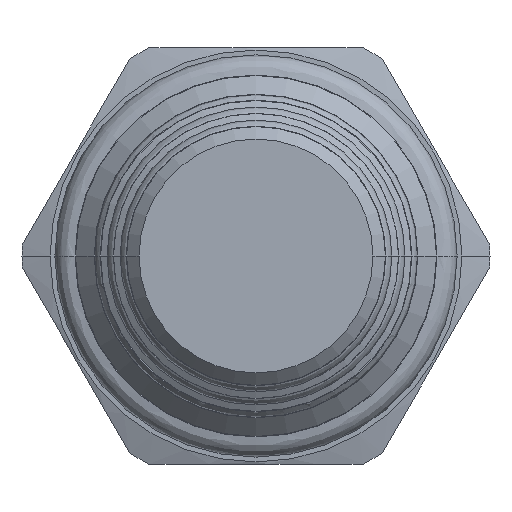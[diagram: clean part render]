
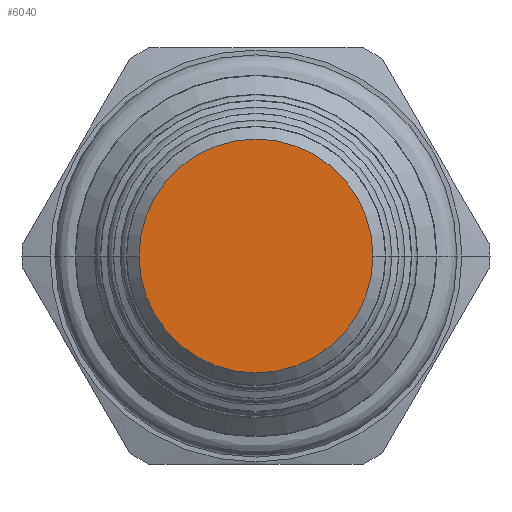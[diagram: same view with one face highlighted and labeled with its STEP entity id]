
A CAD part, front view. The second image highlights one B-rep face of the part: STEP entity #6040.
In plain terms, the highlighted planar face has unit normal (0, -1, 0).
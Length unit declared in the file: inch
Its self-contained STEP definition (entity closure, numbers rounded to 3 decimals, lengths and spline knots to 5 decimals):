
#2335=CARTESIAN_POINT('',(0.,-2.438,0.));
#2336=DIRECTION('',(0.,-1.,0.));
#2337=DIRECTION('',(1.,0.,0.));
#2338=AXIS2_PLACEMENT_3D('',#2335,#2336,#2337);
#2349=CARTESIAN_POINT('',(0.,-2.438,0.));
#2350=DIRECTION('',(0.,1.,0.));
#2351=DIRECTION('',(1.,0.,0.));
#2352=AXIS2_PLACEMENT_3D('',#2349,#2350,#2351);
#2475=CARTESIAN_POINT('',(0.281,-2.438,0.));
#2476=CARTESIAN_POINT('',(-0.281,-2.438,0.));
#2477=VERTEX_POINT('',#2475);
#2478=VERTEX_POINT('',#2476);
#6031=CARTESIAN_POINT('',(0.,-2.438,0.));
#6032=DIRECTION('',(0.,-1.,0.));
#6033=DIRECTION('',(0.,0.,-1.));
#6034=AXIS2_PLACEMENT_3D('',#6031,#6032,#6033);
#6035=PLANE('',#6034);
#6036=ORIENTED_EDGE('',*,*,#6011,.F.);
#6037=ORIENTED_EDGE('',*,*,#6025,.T.);
#6038=EDGE_LOOP('',(#6036,#6037));
#6039=FACE_OUTER_BOUND('',#6038,.F.);
#6040=ADVANCED_FACE('',(#6039),#6035,.T.);
#2339=CIRCLE('',#2338,0.281);
#2353=CIRCLE('',#2352,0.281);
#6011=EDGE_CURVE('',#2477,#2478,#2339,.T.);
#6025=EDGE_CURVE('',#2477,#2478,#2353,.T.);
